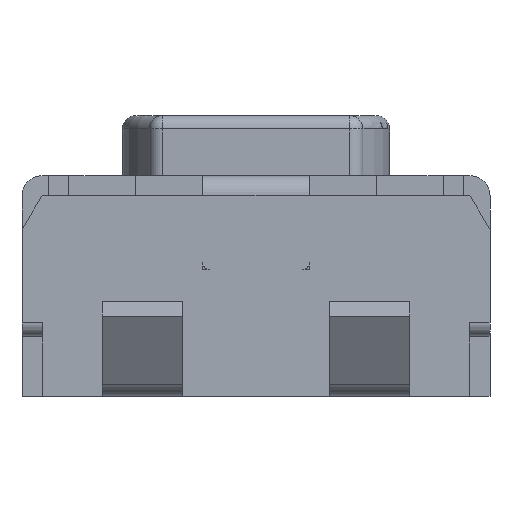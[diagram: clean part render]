
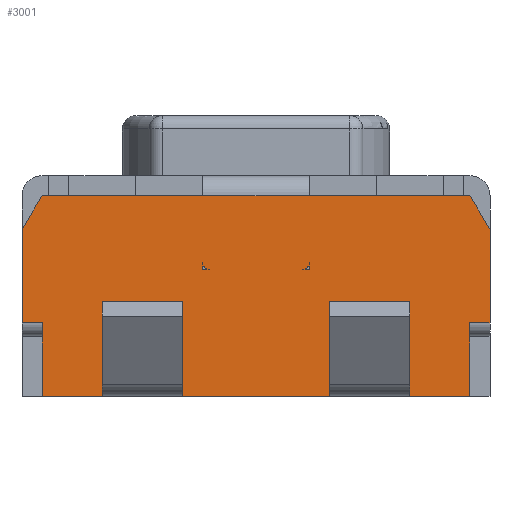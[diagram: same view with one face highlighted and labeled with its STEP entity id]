
A CAD part, left-side view. The second image highlights one B-rep face of the part: STEP entity #3001.
In plain terms, the highlighted planar face has unit normal (-1, 0, 0).
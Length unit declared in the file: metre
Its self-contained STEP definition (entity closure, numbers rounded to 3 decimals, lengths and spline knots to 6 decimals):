
#113=CIRCLE('',#3714,0.00005);
#114=CIRCLE('',#3716,0.00005);
#899=ORIENTED_EDGE('',*,*,#1323,.F.);
#900=ORIENTED_EDGE('',*,*,#1239,.T.);
#901=ORIENTED_EDGE('',*,*,#1325,.F.);
#902=ORIENTED_EDGE('',*,*,#1326,.F.);
#903=ORIENTED_EDGE('',*,*,#1242,.F.);
#904=ORIENTED_EDGE('',*,*,#1328,.F.);
#905=ORIENTED_EDGE('',*,*,#1366,.T.);
#906=ORIENTED_EDGE('',*,*,#1347,.T.);
#907=ORIENTED_EDGE('',*,*,#1332,.T.);
#908=ORIENTED_EDGE('',*,*,#1329,.F.);
#909=ORIENTED_EDGE('',*,*,#1236,.F.);
#910=ORIENTED_EDGE('',*,*,#1322,.F.);
#911=ORIENTED_EDGE('',*,*,#1319,.F.);
#912=ORIENTED_EDGE('',*,*,#1357,.F.);
#913=ORIENTED_EDGE('',*,*,#1311,.F.);
#914=ORIENTED_EDGE('',*,*,#1361,.F.);
#915=ORIENTED_EDGE('',*,*,#1367,.T.);
#916=ORIENTED_EDGE('',*,*,#1363,.F.);
#917=ORIENTED_EDGE('',*,*,#1342,.F.);
#918=ORIENTED_EDGE('',*,*,#1340,.T.);
#919=ORIENTED_EDGE('',*,*,#1338,.T.);
#920=ORIENTED_EDGE('',*,*,#1365,.F.);
#921=ORIENTED_EDGE('',*,*,#1368,.T.);
#922=ORIENTED_EDGE('',*,*,#1344,.F.);
#923=ORIENTED_EDGE('',*,*,#1337,.F.);
#924=ORIENTED_EDGE('',*,*,#1335,.T.);
#925=ORIENTED_EDGE('',*,*,#1333,.T.);
#926=ORIENTED_EDGE('',*,*,#1346,.F.);
#927=ORIENTED_EDGE('',*,*,#1369,.T.);
#928=ORIENTED_EDGE('',*,*,#1370,.T.);
#1236=EDGE_CURVE('',#1549,#1565,#1860,.T.);
#1239=EDGE_CURVE('',#1567,#1566,#113,.T.);
#1242=EDGE_CURVE('',#1568,#1569,#114,.T.);
#1311=EDGE_CURVE('',#1612,#1613,#1925,.T.);
#1319=EDGE_CURVE('',#1618,#1619,#1927,.T.);
#1322=EDGE_CURVE('',#1619,#1549,#1930,.T.);
#1323=EDGE_CURVE('',#1567,#1620,#1931,.T.);
#1325=EDGE_CURVE('',#1620,#1566,#1933,.T.);
#1326=EDGE_CURVE('',#1569,#1621,#1934,.T.);
#1328=EDGE_CURVE('',#1621,#1568,#1936,.T.);
#1329=EDGE_CURVE('',#1565,#1622,#1937,.T.);
#1332=EDGE_CURVE('',#1623,#1622,#1940,.T.);
#1333=EDGE_CURVE('',#1624,#1599,#1941,.T.);
#1335=EDGE_CURVE('',#1625,#1624,#1943,.T.);
#1337=EDGE_CURVE('',#1625,#1596,#1945,.T.);
#1338=EDGE_CURVE('',#1626,#1617,#1946,.T.);
#1340=EDGE_CURVE('',#1627,#1626,#1948,.T.);
#1342=EDGE_CURVE('',#1627,#1614,#1950,.T.);
#1344=EDGE_CURVE('',#1596,#1628,#1952,.T.);
#1346=EDGE_CURVE('',#1629,#1599,#1954,.T.);
#1347=EDGE_CURVE('',#1630,#1623,#1955,.T.);
#1357=EDGE_CURVE('',#1613,#1618,#1964,.T.);
#1361=EDGE_CURVE('',#1638,#1612,#1968,.T.);
#1363=EDGE_CURVE('',#1614,#1639,#1970,.T.);
#1365=EDGE_CURVE('',#1640,#1617,#1972,.T.);
#1366=EDGE_CURVE('',#1641,#1630,#1973,.T.);
#1367=EDGE_CURVE('',#1638,#1639,#1974,.T.);
#1368=EDGE_CURVE('',#1640,#1628,#1975,.T.);
#1369=EDGE_CURVE('',#1629,#1642,#1976,.T.);
#1370=EDGE_CURVE('',#1642,#1641,#1977,.T.);
#1549=VERTEX_POINT('',#5127);
#1565=VERTEX_POINT('',#5177);
#1566=VERTEX_POINT('',#5181);
#1567=VERTEX_POINT('',#5183);
#1568=VERTEX_POINT('',#5187);
#1569=VERTEX_POINT('',#5189);
#1596=VERTEX_POINT('',#5281);
#1599=VERTEX_POINT('',#5287);
#1612=VERTEX_POINT('',#5326);
#1613=VERTEX_POINT('',#5327);
#1614=VERTEX_POINT('',#5332);
#1617=VERTEX_POINT('',#5338);
#1618=VERTEX_POINT('',#5342);
#1619=VERTEX_POINT('',#5343);
#1620=VERTEX_POINT('',#5350);
#1621=VERTEX_POINT('',#5356);
#1622=VERTEX_POINT('',#5362);
#1623=VERTEX_POINT('',#5366);
#1624=VERTEX_POINT('',#5370);
#1625=VERTEX_POINT('',#5374);
#1626=VERTEX_POINT('',#5380);
#1627=VERTEX_POINT('',#5384);
#1628=VERTEX_POINT('',#5390);
#1629=VERTEX_POINT('',#5394);
#1630=VERTEX_POINT('',#5398);
#1638=VERTEX_POINT('',#5423);
#1639=VERTEX_POINT('',#5427);
#1640=VERTEX_POINT('',#5431);
#1641=VERTEX_POINT('',#5435);
#1642=VERTEX_POINT('',#5439);
#1860=LINE('',#5176,#2198);
#1925=LINE('',#5325,#2263);
#1927=LINE('',#5341,#2265);
#1930=LINE('',#5347,#2268);
#1931=LINE('',#5349,#2269);
#1933=LINE('',#5353,#2271);
#1934=LINE('',#5355,#2272);
#1936=LINE('',#5359,#2274);
#1937=LINE('',#5361,#2275);
#1940=LINE('',#5367,#2278);
#1941=LINE('',#5369,#2279);
#1943=LINE('',#5373,#2281);
#1945=LINE('',#5377,#2283);
#1946=LINE('',#5379,#2284);
#1948=LINE('',#5383,#2286);
#1950=LINE('',#5387,#2288);
#1952=LINE('',#5391,#2290);
#1954=LINE('',#5395,#2292);
#1955=LINE('',#5397,#2293);
#1964=LINE('',#5416,#2302);
#1968=LINE('',#5424,#2306);
#1970=LINE('',#5428,#2308);
#1972=LINE('',#5432,#2310);
#1973=LINE('',#5434,#2311);
#1974=LINE('',#5436,#2312);
#1975=LINE('',#5437,#2313);
#1976=LINE('',#5438,#2314);
#1977=LINE('',#5440,#2315);
#2198=VECTOR('',#4313,1.);
#2263=VECTOR('',#4452,1.);
#2265=VECTOR('',#4470,1.);
#2268=VECTOR('',#4475,1.);
#2269=VECTOR('',#4478,1.);
#2271=VECTOR('',#4482,1.);
#2272=VECTOR('',#4485,1.);
#2274=VECTOR('',#4489,1.);
#2275=VECTOR('',#4492,1.);
#2278=VECTOR('',#4497,1.);
#2279=VECTOR('',#4500,1.);
#2281=VECTOR('',#4504,1.);
#2283=VECTOR('',#4508,1.);
#2284=VECTOR('',#4511,1.);
#2286=VECTOR('',#4515,1.);
#2288=VECTOR('',#4519,1.);
#2290=VECTOR('',#4523,1.);
#2292=VECTOR('',#4527,1.);
#2293=VECTOR('',#4530,1.);
#2302=VECTOR('',#4545,1.);
#2306=VECTOR('',#4553,1.);
#2308=VECTOR('',#4557,1.);
#2310=VECTOR('',#4561,1.);
#2311=VECTOR('',#4564,1.);
#2312=VECTOR('',#4565,1.);
#2313=VECTOR('',#4566,1.);
#2314=VECTOR('',#4567,1.);
#2315=VECTOR('',#4568,1.);
#2476=EDGE_LOOP('',(#899,#900,#901));
#2477=EDGE_LOOP('',(#902,#903,#904));
#2478=EDGE_LOOP('',(#905,#906,#907,#908,#909,#910,#911,#912,#913,#914,#915,
#916,#917,#918,#919,#920,#921,#922,#923,#924,#925,#926,#927,#928));
#2638=FACE_BOUND('',#2476,.T.);
#2639=FACE_BOUND('',#2477,.T.);
#2640=FACE_BOUND('',#2478,.T.);
#2757=PLANE('',#3780);
#3001=ADVANCED_FACE('',(#2638,#2639,#2640),#2757,.F.);
#3714=AXIS2_PLACEMENT_3D('',#5182,#4319,#4320);
#3716=AXIS2_PLACEMENT_3D('',#5188,#4325,#4326);
#3780=AXIS2_PLACEMENT_3D('',#5433,#4562,#4563);
#4313=DIRECTION('',(0.,-1.,0.));
#4319=DIRECTION('',(-1.,0.,0.));
#4320=DIRECTION('',(0.,0.,1.));
#4325=DIRECTION('',(1.,0.,0.));
#4326=DIRECTION('',(0.,0.,1.));
#4452=DIRECTION('',(0.,1.,0.));
#4470=DIRECTION('',(0.,-0.514,0.857));
#4475=DIRECTION('',(0.,-1.,0.));
#4478=DIRECTION('',(0.,0.,-1.));
#4482=DIRECTION('',(0.,-1.,0.));
#4485=DIRECTION('',(0.,-1.,0.));
#4489=DIRECTION('',(0.,0.,1.));
#4492=DIRECTION('',(0.,-1.,0.));
#4497=DIRECTION('',(0.,0.514,0.857));
#4500=DIRECTION('',(0.,0.,-1.));
#4504=DIRECTION('',(0.,-1.,0.));
#4508=DIRECTION('',(0.,0.,-1.));
#4511=DIRECTION('',(0.,0.,-1.));
#4515=DIRECTION('',(0.,-1.,0.));
#4519=DIRECTION('',(0.,0.,-1.));
#4523=DIRECTION('',(0.,0.,-1.));
#4527=DIRECTION('',(0.,0.,1.));
#4530=DIRECTION('',(0.,0.,1.));
#4545=DIRECTION('',(0.,0.,1.));
#4553=DIRECTION('',(0.,0.,1.));
#4557=DIRECTION('',(0.,0.,-1.));
#4561=DIRECTION('',(0.,0.,1.));
#4562=DIRECTION('',(1.,0.,0.));
#4563=DIRECTION('',(0.,-1.,0.));
#4564=DIRECTION('',(0.,-1.,0.));
#4565=DIRECTION('',(0.,-1.,0.));
#4566=DIRECTION('',(0.,-1.,0.));
#4567=DIRECTION('',(0.,-1.,0.));
#4568=DIRECTION('',(0.,0.,1.));
#5127=CARTESIAN_POINT('',(0.17565,-0.1111,0.003095));
#5176=CARTESIAN_POINT('',(0.17565,-0.1111,0.003095));
#5177=CARTESIAN_POINT('',(0.17565,-0.1119,0.003095));
#5181=CARTESIAN_POINT('',(0.17565,-0.11115,0.002545));
#5182=CARTESIAN_POINT('',(0.17565,-0.11115,0.002595));
#5183=CARTESIAN_POINT('',(0.17565,-0.1111,0.002595));
#5187=CARTESIAN_POINT('',(0.17565,-0.1119,0.002595));
#5188=CARTESIAN_POINT('',(0.17565,-0.11185,0.002595));
#5189=CARTESIAN_POINT('',(0.17565,-0.11185,0.002545));
#5281=CARTESIAN_POINT('',(0.17565,-0.11205,0.001626));
#5287=CARTESIAN_POINT('',(0.17565,-0.11265,0.001626));
#5325=CARTESIAN_POINT('',(0.17565,-0.1099,0.002145));
#5326=CARTESIAN_POINT('',(0.17565,-0.1099,0.002145));
#5327=CARTESIAN_POINT('',(0.17565,-0.10975,0.002145));
#5332=CARTESIAN_POINT('',(0.17565,-0.11035,0.001626));
#5338=CARTESIAN_POINT('',(0.17565,-0.11095,0.001626));
#5341=CARTESIAN_POINT('',(0.17565,-0.10975,0.002845));
#5342=CARTESIAN_POINT('',(0.17565,-0.10975,0.002845));
#5343=CARTESIAN_POINT('',(0.17565,-0.1099,0.003095));
#5347=CARTESIAN_POINT('',(0.17565,-0.1099,0.003095));
#5349=CARTESIAN_POINT('',(0.17565,-0.1111,0.003245));
#5350=CARTESIAN_POINT('',(0.17565,-0.1111,0.002545));
#5353=CARTESIAN_POINT('',(0.17565,-0.1111,0.002545));
#5355=CARTESIAN_POINT('',(0.17565,-0.1111,0.002545));
#5356=CARTESIAN_POINT('',(0.17565,-0.1119,0.002545));
#5359=CARTESIAN_POINT('',(0.17565,-0.1119,0.002545));
#5361=CARTESIAN_POINT('',(0.17565,-0.1099,0.003095));
#5362=CARTESIAN_POINT('',(0.17565,-0.1131,0.003095));
#5366=CARTESIAN_POINT('',(0.17565,-0.11325,0.002845));
#5367=CARTESIAN_POINT('',(0.17565,-0.11325,0.002845));
#5369=CARTESIAN_POINT('',(0.17565,-0.11265,0.001734));
#5370=CARTESIAN_POINT('',(0.17565,-0.11265,0.001956));
#5373=CARTESIAN_POINT('',(0.17565,-0.111125,0.001956));
#5374=CARTESIAN_POINT('',(0.17565,-0.11205,0.001956));
#5377=CARTESIAN_POINT('',(0.17565,-0.11205,0.001595));
#5379=CARTESIAN_POINT('',(0.17565,-0.11095,0.001734));
#5380=CARTESIAN_POINT('',(0.17565,-0.11095,0.001956));
#5383=CARTESIAN_POINT('',(0.17565,-0.110275,0.001956));
#5384=CARTESIAN_POINT('',(0.17565,-0.11035,0.001956));
#5387=CARTESIAN_POINT('',(0.17565,-0.11035,0.001595));
#5390=CARTESIAN_POINT('',(0.17565,-0.11205,0.001595));
#5391=CARTESIAN_POINT('',(0.17565,-0.11205,0.001595));
#5394=CARTESIAN_POINT('',(0.17565,-0.11265,0.001595));
#5395=CARTESIAN_POINT('',(0.17565,-0.11265,0.001595));
#5397=CARTESIAN_POINT('',(0.17565,-0.11325,0.002495));
#5398=CARTESIAN_POINT('',(0.17565,-0.11325,0.002145));
#5416=CARTESIAN_POINT('',(0.17565,-0.10975,0.002495));
#5423=CARTESIAN_POINT('',(0.17565,-0.1099,0.001595));
#5424=CARTESIAN_POINT('',(0.17565,-0.1099,0.001595));
#5427=CARTESIAN_POINT('',(0.17565,-0.11035,0.001595));
#5428=CARTESIAN_POINT('',(0.17565,-0.11035,0.001595));
#5431=CARTESIAN_POINT('',(0.17565,-0.11095,0.001595));
#5432=CARTESIAN_POINT('',(0.17565,-0.11095,0.001595));
#5433=CARTESIAN_POINT('',(0.17565,-0.1099,0.001595));
#5434=CARTESIAN_POINT('',(0.17565,-0.1131,0.002145));
#5435=CARTESIAN_POINT('',(0.17565,-0.1131,0.002145));
#5436=CARTESIAN_POINT('',(0.17565,-0.1099,0.001595));
#5437=CARTESIAN_POINT('',(0.17565,-0.1099,0.001595));
#5438=CARTESIAN_POINT('',(0.17565,-0.1099,0.001595));
#5439=CARTESIAN_POINT('',(0.17565,-0.1131,0.001595));
#5440=CARTESIAN_POINT('',(0.17565,-0.1131,0.001595));
